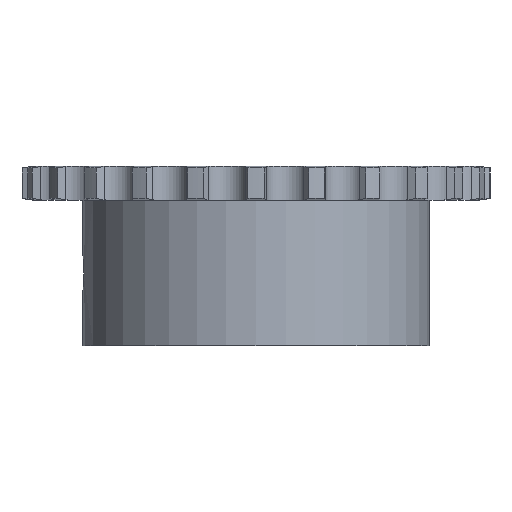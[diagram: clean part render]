
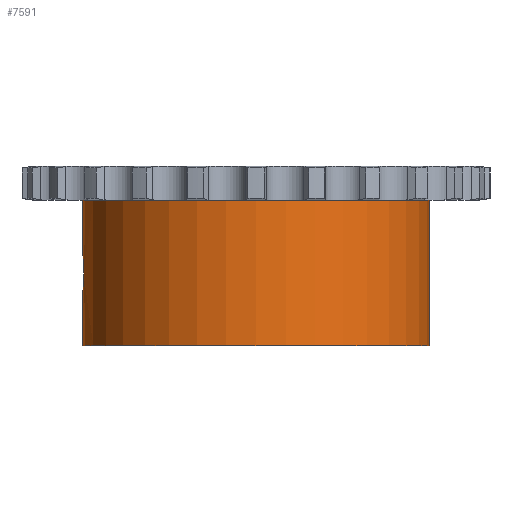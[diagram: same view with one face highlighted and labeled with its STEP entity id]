
A CAD part, front view. The second image highlights one B-rep face of the part: STEP entity #7591.
In plain terms, the highlighted cylindrical face has radius 27 mm (diameter 54 mm), a partial arc.
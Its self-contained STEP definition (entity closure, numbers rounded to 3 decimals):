
#1431=CARTESIAN_POINT('',(0.,0.,-2.65));
#1432=DIRECTION('',(0.,0.,1.));
#1433=DIRECTION('',(-1.,0.,0.));
#1434=AXIS2_PLACEMENT_3D('',#1431,#1432,#1433);
#3879=CARTESIAN_POINT('',(-27.,0.,
-11.));
#3901=DIRECTION('',(0.,0.,1.));
#3902=VECTOR('',#3901,22.7);
#3903=CARTESIAN_POINT('',(27.,0.,-25.35));
#3904=LINE('',#3903,#3902);
#4019=CARTESIAN_POINT('',(0.,0.,-25.35));
#4020=DIRECTION('',(0.,0.,-1.));
#4021=DIRECTION('',(1.,0.,0.));
#4022=AXIS2_PLACEMENT_3D('',#4019,#4020,#4021);
#4048=CARTESIAN_POINT('',(-27.,0.,
-11.));
#4049=CARTESIAN_POINT('',(-27.,-0.161,
-11.));
#4050=CARTESIAN_POINT('',(-26.997,-0.48,
-11.024));
#4051=CARTESIAN_POINT('',(-26.984,-0.961,
-11.137));
#4052=CARTESIAN_POINT('',(-26.964,-1.416,
-11.324));
#4053=CARTESIAN_POINT('',(-26.939,-1.832,
-11.576));
#4054=CARTESIAN_POINT('',(-26.911,-2.197,
-11.887));
#4055=CARTESIAN_POINT('',(-26.884,-2.51,
-12.249));
#4056=CARTESIAN_POINT('',(-26.859,-2.761,
-12.658));
#4057=CARTESIAN_POINT('',(-26.839,-2.942,
-13.097));
#4058=CARTESIAN_POINT('',(-26.827,-3.048,
-13.552));
#4059=CARTESIAN_POINT('',(-26.825,-3.071,
-13.85));
#4060=CARTESIAN_POINT('',(-26.825,-3.071,
-14.));
#4065=DIRECTION('',(0.,0.,1.));
#4066=VECTOR('',#4065,8.35);
#4067=CARTESIAN_POINT('',(-27.,0.,
-11.));
#4068=LINE('',#4067,#4066);
#4072=DIRECTION('',(0.,0.,1.));
#4073=VECTOR('',#4072,8.35);
#4074=CARTESIAN_POINT('',(-27.,0.,-25.35));
#4075=LINE('',#4074,#4073);
#4079=CARTESIAN_POINT('',(-26.825,-3.071,
-14.));
#4080=CARTESIAN_POINT('',(-26.825,-3.071,
-14.149));
#4081=CARTESIAN_POINT('',(-26.827,-3.049,
-14.448));
#4082=CARTESIAN_POINT('',(-26.839,-2.942,
-14.902));
#4083=CARTESIAN_POINT('',(-26.859,-2.762,
-15.341));
#4084=CARTESIAN_POINT('',(-26.884,-2.511,
-15.75));
#4085=CARTESIAN_POINT('',(-26.911,-2.198,
-16.113));
#4086=CARTESIAN_POINT('',(-26.939,-1.832,
-16.423));
#4087=CARTESIAN_POINT('',(-26.964,-1.417,
-16.676));
#4088=CARTESIAN_POINT('',(-26.984,-0.962,
-16.863));
#4089=CARTESIAN_POINT('',(-26.997,-0.481,
-16.976));
#4090=CARTESIAN_POINT('',(-27.,-0.161,
-17.));
#4091=CARTESIAN_POINT('',(-27.,0.,
-17.));
#4483=CARTESIAN_POINT('',(-27.,0.,-25.35));
#4484=CARTESIAN_POINT('',(27.,0.,-25.35));
#4485=VERTEX_POINT('',#4483);
#4486=VERTEX_POINT('',#4484);
#4487=CARTESIAN_POINT('',(27.,0.,-2.65));
#4488=VERTEX_POINT('',#4487);
#4489=CARTESIAN_POINT('',(-27.,0.,-2.65));
#4490=VERTEX_POINT('',#4489);
#4762=VERTEX_POINT('',#3879);
#4765=VERTEX_POINT('',#4060);
#4767=VERTEX_POINT('',#4091);
#7575=CARTESIAN_POINT('',(0.,0.,2.65));
#7576=DIRECTION('',(0.,0.,1.));
#7577=DIRECTION('',(1.,0.,0.));
#7578=AXIS2_PLACEMENT_3D('',#7575,#7576,#7577);
#7579=CYLINDRICAL_SURFACE('',#7578,27.);
#7581=ORIENTED_EDGE('',*,*,#7580,.F.);
#7582=ORIENTED_EDGE('',*,*,#7301,.T.);
#7583=ORIENTED_EDGE('',*,*,#6356,.T.);
#7584=ORIENTED_EDGE('',*,*,#7298,.F.);
#7585=ORIENTED_EDGE('',*,*,#7561,.T.);
#7586=ORIENTED_EDGE('',*,*,#7294,.T.);
#7588=ORIENTED_EDGE('',*,*,#7587,.F.);
#7589=EDGE_LOOP('',(#7581,#7582,#7583,#7584,#7585,#7586,#7588));
#7590=FACE_OUTER_BOUND('',#7589,.F.);
#7591=ADVANCED_FACE('',(#7590),#7579,.T.);
#1435=CIRCLE('',#1434,27.);
#4023=CIRCLE('',#4022,27.);
#4061=B_SPLINE_CURVE_WITH_KNOTS('',3,(#4048,#4049,#4050,#4051,#4052,#4053,#4054,
#4055,#4056,#4057,#4058,#4059,#4060),.UNSPECIFIED.,.F.,.F.,(4,1,1,1,1,1,1,1,1,1,
4),(0.,0.1,0.2,0.3,0.4,0.5,0.6,0.7,0.8,0.9,1.),
.UNSPECIFIED.);
#4092=B_SPLINE_CURVE_WITH_KNOTS('',3,(#4079,#4080,#4081,#4082,#4083,#4084,#4085,
#4086,#4087,#4088,#4089,#4090,#4091),.UNSPECIFIED.,.F.,.F.,(4,1,1,1,1,1,1,1,1,1,
4),(0.,0.1,0.2,0.3,0.4,0.5,0.6,0.7,0.8,0.9,1.),
.UNSPECIFIED.);
#6356=EDGE_CURVE('',#4490,#4488,#1435,.T.);
#7294=EDGE_CURVE('',#4485,#4767,#4075,.T.);
#7298=EDGE_CURVE('',#4486,#4488,#3904,.T.);
#7301=EDGE_CURVE('',#4762,#4490,#4068,.T.);
#7561=EDGE_CURVE('',#4486,#4485,#4023,.T.);
#7580=EDGE_CURVE('',#4762,#4765,#4061,.T.);
#7587=EDGE_CURVE('',#4765,#4767,#4092,.T.);
